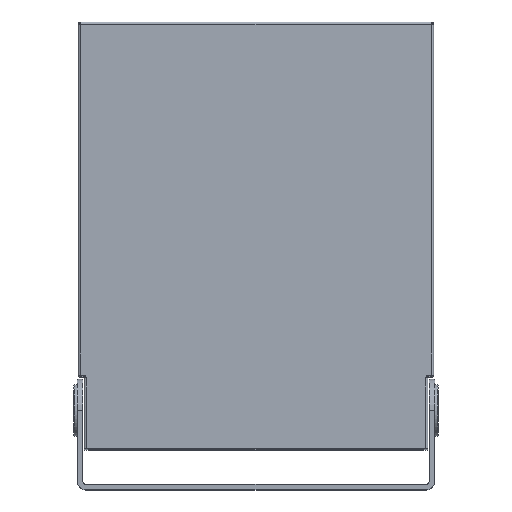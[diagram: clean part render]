
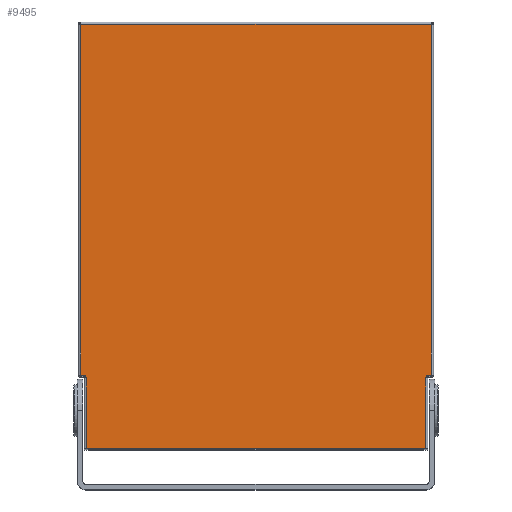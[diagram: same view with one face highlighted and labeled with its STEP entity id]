
A CAD part, top view. The second image highlights one B-rep face of the part: STEP entity #9495.
In plain terms, the highlighted planar face has unit normal (0, 0, 1).
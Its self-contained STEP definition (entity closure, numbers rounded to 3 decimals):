
#1=DIRECTION('',(0.,-1.,0.));
#2=VECTOR('',#1,50.73);
#3=CARTESIAN_POINT('',(-122.,-128.092,0.));
#4=LINE('',#3,#2);
#5=CARTESIAN_POINT('',(-124.,-128.092,0.));
#6=DIRECTION('',(0.,0.,1.));
#7=DIRECTION('',(1.,0.,0.));
#8=AXIS2_PLACEMENT_3D('',#5,#6,#7);
#10=DIRECTION('',(-1.,0.026,0.));
#11=VECTOR('',#10,2.053);
#12=CARTESIAN_POINT('',(-123.948,-126.093,0.));
#13=LINE('',#12,#11);
#14=DIRECTION('',(0.,-1.,0.));
#15=VECTOR('',#14,252.039);
#16=CARTESIAN_POINT('',(-126.,126.,0.));
#17=LINE('',#16,#15);
#18=DIRECTION('',(-1.,0.,0.));
#19=VECTOR('',#18,252.);
#20=CARTESIAN_POINT('',(126.,126.,0.));
#21=LINE('',#20,#19);
#22=DIRECTION('',(0.,1.,0.));
#23=VECTOR('',#22,252.039);
#24=CARTESIAN_POINT('',(126.,-126.039,0.));
#25=LINE('',#24,#23);
#26=DIRECTION('',(-1.,-0.026,0.));
#27=VECTOR('',#26,2.053);
#28=CARTESIAN_POINT('',(126.,-126.039,0.));
#29=LINE('',#28,#27);
#30=CARTESIAN_POINT('',(124.,-128.092,0.));
#31=DIRECTION('',(0.,0.,1.));
#32=DIRECTION('',(-0.026,1.,0.));
#33=AXIS2_PLACEMENT_3D('',#30,#31,#32);
#35=DIRECTION('',(0.,1.,0.));
#36=VECTOR('',#35,50.73);
#37=CARTESIAN_POINT('',(122.,-178.822,0.));
#38=LINE('',#37,#36);
#39=DIRECTION('',(-1.,0.,0.));
#40=VECTOR('',#39,244.);
#41=CARTESIAN_POINT('',(122.,-178.822,0.));
#42=LINE('',#41,#40);
#7595=CARTESIAN_POINT('',(-122.,-178.822,0.));
#7613=CARTESIAN_POINT('',(122.,-178.822,0.));
#9109=VERTEX_POINT('',#7595);
#9113=CARTESIAN_POINT('',(-122.,-128.092,0.));
#9114=VERTEX_POINT('',#9113);
#9115=CARTESIAN_POINT('',(-123.948,-126.093,0.));
#9116=VERTEX_POINT('',#9115);
#9117=CARTESIAN_POINT('',(-126.,-126.039,0.));
#9118=VERTEX_POINT('',#9117);
#9123=CARTESIAN_POINT('',(-126.,126.,0.));
#9124=VERTEX_POINT('',#9123);
#9129=CARTESIAN_POINT('',(126.,126.,0.));
#9130=VERTEX_POINT('',#9129);
#9135=CARTESIAN_POINT('',(126.,-126.039,0.));
#9136=VERTEX_POINT('',#9135);
#9141=CARTESIAN_POINT('',(123.948,-126.093,0.));
#9142=VERTEX_POINT('',#9141);
#9143=CARTESIAN_POINT('',(122.,-128.092,0.));
#9144=VERTEX_POINT('',#9143);
#9146=VERTEX_POINT('',#7613);
#9468=CARTESIAN_POINT('',(0.,0.,0.));
#9469=DIRECTION('',(0.,0.,1.));
#9470=DIRECTION('',(1.,0.,0.));
#9471=AXIS2_PLACEMENT_3D('',#9468,#9469,#9470);
#9472=PLANE('',#9471);
#9474=ORIENTED_EDGE('',*,*,#9473,.F.);
#9476=ORIENTED_EDGE('',*,*,#9475,.T.);
#9478=ORIENTED_EDGE('',*,*,#9477,.T.);
#9480=ORIENTED_EDGE('',*,*,#9479,.F.);
#9482=ORIENTED_EDGE('',*,*,#9481,.F.);
#9484=ORIENTED_EDGE('',*,*,#9483,.F.);
#9486=ORIENTED_EDGE('',*,*,#9485,.T.);
#9488=ORIENTED_EDGE('',*,*,#9487,.T.);
#9490=ORIENTED_EDGE('',*,*,#9489,.F.);
#9492=ORIENTED_EDGE('',*,*,#9491,.T.);
#9493=EDGE_LOOP('',(#9474,#9476,#9478,#9480,#9482,#9484,#9486,#9488,#9490,
#9492));
#9494=FACE_OUTER_BOUND('',#9493,.F.);
#9495=ADVANCED_FACE('',(#9494),#9472,.T.);
#9=CIRCLE('',#8,2.);
#34=CIRCLE('',#33,2.);
#9473=EDGE_CURVE('',#9114,#9109,#4,.T.);
#9475=EDGE_CURVE('',#9114,#9116,#9,.T.);
#9477=EDGE_CURVE('',#9116,#9118,#13,.T.);
#9479=EDGE_CURVE('',#9124,#9118,#17,.T.);
#9481=EDGE_CURVE('',#9130,#9124,#21,.T.);
#9483=EDGE_CURVE('',#9136,#9130,#25,.T.);
#9485=EDGE_CURVE('',#9136,#9142,#29,.T.);
#9487=EDGE_CURVE('',#9142,#9144,#34,.T.);
#9489=EDGE_CURVE('',#9146,#9144,#38,.T.);
#9491=EDGE_CURVE('',#9146,#9109,#42,.T.);
